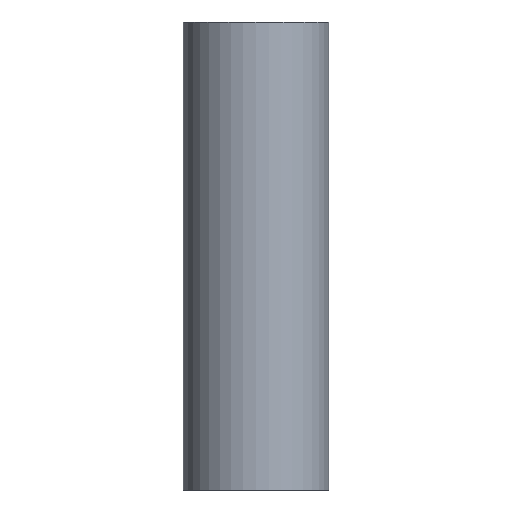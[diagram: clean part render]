
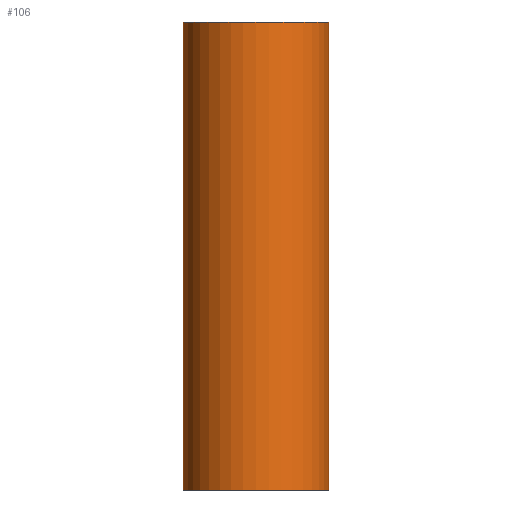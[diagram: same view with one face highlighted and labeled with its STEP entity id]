
A CAD part, left-side view. The second image highlights one B-rep face of the part: STEP entity #106.
In plain terms, the highlighted cylindrical face has radius 28 mm (diameter 56 mm), a full revolution.
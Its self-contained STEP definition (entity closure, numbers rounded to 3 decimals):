
#23=FACE_BOUND('',#47,.T.);
#24=FACE_BOUND('',#48,.T.);
#27=B_SPLINE_CURVE_WITH_KNOTS('',3,(#253,#254,#255,#256,#257,#258,#259,
#260,#261,#262,#263,#264,#265,#266,#267,#268,#269,#270,#271,#272,#273,#274,
#275,#276,#277,#278,#279,#280,#281,#282,#283,#284,#285,#286,#287,#288,#289,
#290,#291,#292,#293,#294,#295,#296,#297,#298,#299,#300,#301,#302,#303,#304,
#305,#306,#307,#308,#309,#310,#311,#312,#313,#314,#315,#316,#317,#318,#319,
#320,#321,#322,#323,#324),.UNSPECIFIED.,.T.,.F.,(4,2,2,2,2,2,2,2,2,2,2,
2,2,2,2,2,2,2,2,2,2,2,2,2,2,2,2,2,2,2,2,2,2,2,2,4),(0.,0.734,
1.468,2.361,3.253,5.036,5.487,
5.713,5.939,6.154,6.369,6.8,
7.626,8.452,9.39,10.329,11.103,
11.876,12.371,12.619,12.866,13.326,
13.785,14.283,14.781,15.279,15.777,
16.275,16.773,17.271,17.769,18.228,
18.688,18.935,19.183,19.678),
 .UNSPECIFIED.);
#33=FACE_OUTER_BOUND('',#46,.T.);
#46=EDGE_LOOP('',(#84));
#47=EDGE_LOOP('',(#85));
#48=EDGE_LOOP('',(#86));
#55=CIRCLE('',#137,28.);
#56=CIRCLE('',#139,28.);
#62=VERTEX_POINT('',#252);
#63=VERTEX_POINT('',#327);
#64=VERTEX_POINT('',#330);
#70=EDGE_CURVE('',#62,#62,#27,.T.);
#71=EDGE_CURVE('',#63,#63,#55,.T.);
#72=EDGE_CURVE('',#64,#64,#56,.T.);
#84=ORIENTED_EDGE('',*,*,#71,.T.);
#85=ORIENTED_EDGE('',*,*,#70,.T.);
#86=ORIENTED_EDGE('',*,*,#72,.F.);
#92=CYLINDRICAL_SURFACE('',#138,28.);
#106=ADVANCED_FACE('',(#33,#23,#24),#92,.T.);
#137=AXIS2_PLACEMENT_3D('',#328,#161,#162);
#138=AXIS2_PLACEMENT_3D('',#329,#163,#164);
#139=AXIS2_PLACEMENT_3D('',#331,#165,#166);
#161=DIRECTION('center_axis',(0.,0.,-1.));
#162=DIRECTION('ref_axis',(1.,0.,0.));
#163=DIRECTION('center_axis',(0.,0.,-1.));
#164=DIRECTION('ref_axis',(-1.,0.,0.));
#165=DIRECTION('center_axis',(0.,0.,-1.));
#166=DIRECTION('ref_axis',(1.,0.,0.));
#252=CARTESIAN_POINT('',(12.61,-25.,72.61));
#253=CARTESIAN_POINT('Ctrl Pts',(12.61,-25.,72.61));
#254=CARTESIAN_POINT('Ctrl Pts',(12.61,-25.,75.056));
#255=CARTESIAN_POINT('Ctrl Pts',(12.971,-24.821,77.691));
#256=CARTESIAN_POINT('Ctrl Pts',(14.019,-24.245,82.897));
#257=CARTESIAN_POINT('Ctrl Pts',(14.699,-23.845,85.468));
#258=CARTESIAN_POINT('Ctrl Pts',(16.175,-22.876,90.595));
#259=CARTESIAN_POINT('Ctrl Pts',(17.147,-22.175,93.637));
#260=CARTESIAN_POINT('Ctrl Pts',(19.16,-20.461,99.607));
#261=CARTESIAN_POINT('Ctrl Pts',(20.198,-19.445,102.535));
#262=CARTESIAN_POINT('Ctrl Pts',(23.024,-16.19,110.34));
#263=CARTESIAN_POINT('Ctrl Pts',(25.273,-12.925,116.266));
#264=CARTESIAN_POINT('Ctrl Pts',(27.043,-7.352,120.878));
#265=CARTESIAN_POINT('Ctrl Pts',(27.388,-6.006,121.772));
#266=CARTESIAN_POINT('Ctrl Pts',(27.749,-3.816,122.706));
#267=CARTESIAN_POINT('Ctrl Pts',(27.843,-3.057,122.95));
#268=CARTESIAN_POINT('Ctrl Pts',(27.969,-1.526,123.275));
#269=CARTESIAN_POINT('Ctrl Pts',(28.,-0.753,123.355));
#270=CARTESIAN_POINT('Ctrl Pts',(28.,0.717,123.355));
#271=CARTESIAN_POINT('Ctrl Pts',(27.972,1.454,123.283));
#272=CARTESIAN_POINT('Ctrl Pts',(27.857,2.919,122.986));
#273=CARTESIAN_POINT('Ctrl Pts',(27.771,3.647,122.762));
#274=CARTESIAN_POINT('Ctrl Pts',(27.44,5.752,121.905));
#275=CARTESIAN_POINT('Ctrl Pts',(27.121,7.053,121.08));
#276=CARTESIAN_POINT('Ctrl Pts',(26.15,10.247,118.552));
#277=CARTESIAN_POINT('Ctrl Pts',(25.316,12.1,116.371));
#278=CARTESIAN_POINT('Ctrl Pts',(23.534,15.281,111.645));
#279=CARTESIAN_POINT('Ctrl Pts',(22.585,16.608,109.097));
#280=CARTESIAN_POINT('Ctrl Pts',(20.725,18.893,104.006));
#281=CARTESIAN_POINT('Ctrl Pts',(19.629,20.018,100.95));
#282=CARTESIAN_POINT('Ctrl Pts',(17.496,21.907,94.705));
#283=CARTESIAN_POINT('Ctrl Pts',(16.46,22.675,91.517));
#284=CARTESIAN_POINT('Ctrl Pts',(14.879,23.735,86.136));
#285=CARTESIAN_POINT('Ctrl Pts',(14.146,24.173,83.434));
#286=CARTESIAN_POINT('Ctrl Pts',(13.009,24.803,77.96));
#287=CARTESIAN_POINT('Ctrl Pts',(12.61,25.,75.188));
#288=CARTESIAN_POINT('Ctrl Pts',(12.61,25.,70.96));
#289=CARTESIAN_POINT('Ctrl Pts',(12.786,24.916,69.159));
#290=CARTESIAN_POINT('Ctrl Pts',(13.49,24.538,66.634));
#291=CARTESIAN_POINT('Ctrl Pts',(13.795,24.369,65.819));
#292=CARTESIAN_POINT('Ctrl Pts',(14.516,23.947,64.297));
#293=CARTESIAN_POINT('Ctrl Pts',(14.931,23.693,63.589));
#294=CARTESIAN_POINT('Ctrl Pts',(16.172,22.878,61.759));
#295=CARTESIAN_POINT('Ctrl Pts',(17.17,22.158,60.631));
#296=CARTESIAN_POINT('Ctrl Pts',(19.209,20.416,58.669));
#297=CARTESIAN_POINT('Ctrl Pts',(20.243,19.394,57.828));
#298=CARTESIAN_POINT('Ctrl Pts',(22.115,17.238,56.401));
#299=CARTESIAN_POINT('Ctrl Pts',(23.064,15.961,55.743));
#300=CARTESIAN_POINT('Ctrl Pts',(24.77,13.159,54.61));
#301=CARTESIAN_POINT('Ctrl Pts',(25.526,11.634,54.135));
#302=CARTESIAN_POINT('Ctrl Pts',(26.754,8.435,53.381));
#303=CARTESIAN_POINT('Ctrl Pts',(27.227,6.758,53.1));
#304=CARTESIAN_POINT('Ctrl Pts',(27.85,3.37,52.732));
#305=CARTESIAN_POINT('Ctrl Pts',(28.,1.66,52.645));
#306=CARTESIAN_POINT('Ctrl Pts',(28.,-1.66,52.645));
#307=CARTESIAN_POINT('Ctrl Pts',(27.85,-3.37,52.732));
#308=CARTESIAN_POINT('Ctrl Pts',(27.227,-6.758,53.1));
#309=CARTESIAN_POINT('Ctrl Pts',(26.754,-8.435,53.381));
#310=CARTESIAN_POINT('Ctrl Pts',(25.526,-11.634,54.135));
#311=CARTESIAN_POINT('Ctrl Pts',(24.77,-13.159,54.61));
#312=CARTESIAN_POINT('Ctrl Pts',(23.064,-15.961,55.743));
#313=CARTESIAN_POINT('Ctrl Pts',(22.115,-17.238,56.401));
#314=CARTESIAN_POINT('Ctrl Pts',(20.243,-19.394,57.828));
#315=CARTESIAN_POINT('Ctrl Pts',(19.209,-20.416,58.669));
#316=CARTESIAN_POINT('Ctrl Pts',(17.17,-22.158,60.631));
#317=CARTESIAN_POINT('Ctrl Pts',(16.172,-22.878,61.759));
#318=CARTESIAN_POINT('Ctrl Pts',(14.931,-23.693,63.589));
#319=CARTESIAN_POINT('Ctrl Pts',(14.516,-23.947,64.297));
#320=CARTESIAN_POINT('Ctrl Pts',(13.795,-24.369,65.819));
#321=CARTESIAN_POINT('Ctrl Pts',(13.49,-24.538,66.634));
#322=CARTESIAN_POINT('Ctrl Pts',(12.786,-24.916,69.159));
#323=CARTESIAN_POINT('Ctrl Pts',(12.61,-25.,70.96));
#324=CARTESIAN_POINT('Ctrl Pts',(12.61,-25.,72.61));
#327=CARTESIAN_POINT('',(-28.,0.,180.));
#328=CARTESIAN_POINT('Origin',(0.,0.,180.));
#329=CARTESIAN_POINT('Origin',(0.,0.,90.));
#330=CARTESIAN_POINT('',(-28.,0.,0.));
#331=CARTESIAN_POINT('Origin',(0.,0.,0.));
